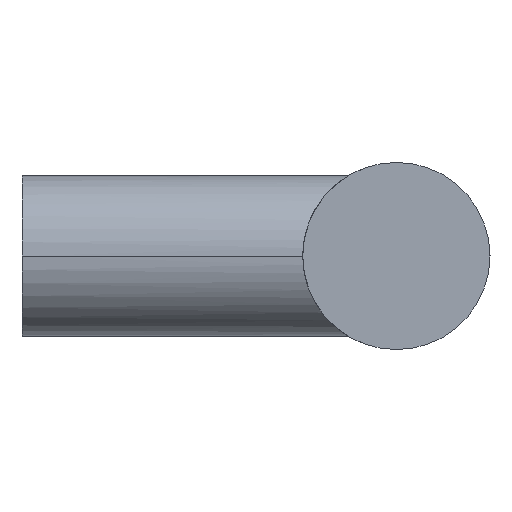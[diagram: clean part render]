
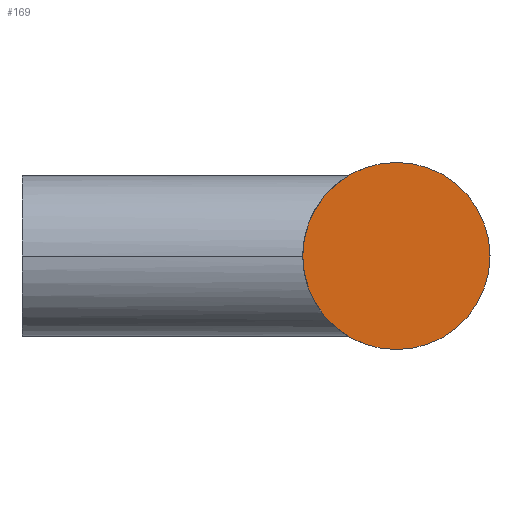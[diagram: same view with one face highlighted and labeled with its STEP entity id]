
A CAD part, left-side view. The second image highlights one B-rep face of the part: STEP entity #169.
In plain terms, the highlighted planar face has unit normal (-1, 0, 0).
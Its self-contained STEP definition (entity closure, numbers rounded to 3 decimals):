
#115 = EDGE_CURVE( '', #167, #139, #274, .T. );
#139 = VERTEX_POINT( '', #300 );
#167 = VERTEX_POINT( '', #331 );
#169 = ADVANCED_FACE( '', ( #333 ), #334, .F. );
#209 = EDGE_CURVE( '', #139, #167, #382, .T. );
#274 = CIRCLE( '', #485, 7. );
#300 = CARTESIAN_POINT( '', ( -30., -28., -7. ) );
#331 = CARTESIAN_POINT( '', ( -30., -28., 7. ) );
#333 = FACE_OUTER_BOUND( '', #576, .T. );
#334 = PLANE( '', #577 );
#382 = CIRCLE( '', #685, 7. );
#485 = AXIS2_PLACEMENT_3D( '', #780, #781, #782 );
#576 = EDGE_LOOP( '', ( #844, #845 ) );
#577 = AXIS2_PLACEMENT_3D( '', #846, #847, #848 );
#685 = AXIS2_PLACEMENT_3D( '', #904, #905, #906 );
#780 = CARTESIAN_POINT( '', ( -30., -28., 0. ) );
#781 = DIRECTION( '', ( 1., 0., 0. ) );
#782 = DIRECTION( '', ( 0., 0., -1. ) );
#844 = ORIENTED_EDGE( '', *, *, #209, .F. );
#845 = ORIENTED_EDGE( '', *, *, #115, .F. );
#846 = CARTESIAN_POINT( '', ( -30., 0., 0. ) );
#847 = DIRECTION( '', ( 1., 0., 0. ) );
#848 = DIRECTION( '', ( 0., 0., -1. ) );
#904 = CARTESIAN_POINT( '', ( -30., -28., 0. ) );
#905 = DIRECTION( '', ( 1., 0., 0. ) );
#906 = DIRECTION( '', ( 0., 0., -1. ) );
